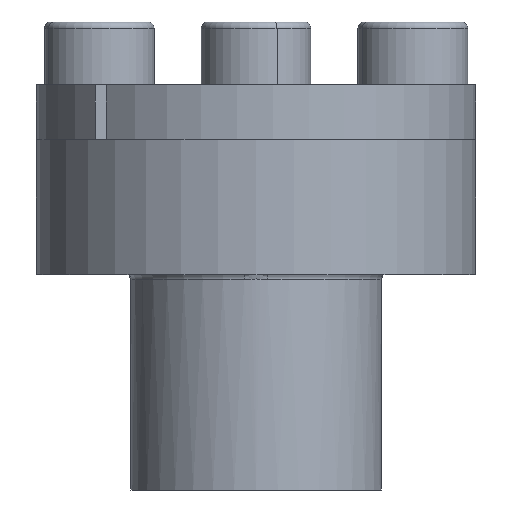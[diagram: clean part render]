
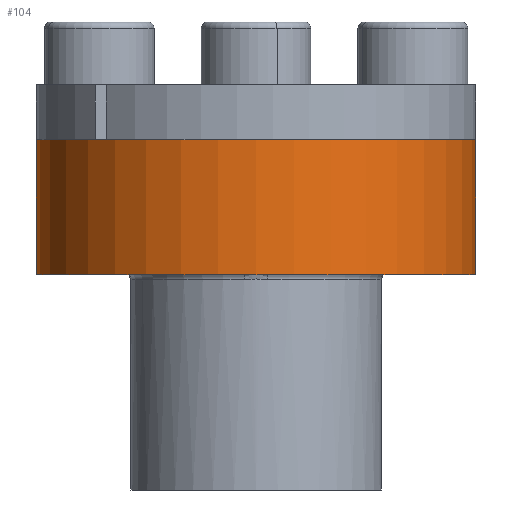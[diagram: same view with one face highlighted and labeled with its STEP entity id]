
A CAD part, front view. The second image highlights one B-rep face of the part: STEP entity #104.
In plain terms, the highlighted cylindrical face has radius 14 mm (diameter 28 mm), a partial arc.
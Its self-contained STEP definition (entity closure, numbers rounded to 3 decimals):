
#104 = ADVANCED_FACE ( 'NONE', ( #1159 ), #1026, .T. ) ;
#137 = VECTOR ( 'NONE', #4461, 1000. ) ;
#182 = DIRECTION ( 'NONE',  ( 0., 0., 1. ) ) ;
#194 = AXIS2_PLACEMENT_3D ( 'NONE', #2856, #182, #3310 ) ;
#238 = CARTESIAN_POINT ( 'NONE',  ( -14., 0., 2.34 ) ) ;
#571 = EDGE_CURVE ( 'NONE', #4364, #5284, #4912, .T. ) ;
#909 = DIRECTION ( 'NONE',  ( 0., 0., -1. ) ) ;
#1021 = VECTOR ( 'NONE', #3374, 1000. ) ;
#1026 = CYLINDRICAL_SURFACE ( 'NONE', #3289, 14. ) ;
#1159 = FACE_OUTER_BOUND ( 'NONE', #3343, .T. ) ;
#1327 = ORIENTED_EDGE ( 'NONE', *, *, #571, .F. ) ;
#1450 = ORIENTED_EDGE ( 'NONE', *, *, #3018, .T. ) ;
#1459 = ORIENTED_EDGE ( 'NONE', *, *, #4876, .T. ) ;
#2001 = VERTEX_POINT ( 'NONE', #3392 ) ;
#2101 = CARTESIAN_POINT ( 'NONE',  ( 0., 0., -6.26 ) ) ;
#2207 = LINE ( 'NONE', #238, #1021 ) ;
#2547 = DIRECTION ( 'NONE',  ( 1., 0., 0. ) ) ;
#2655 = CARTESIAN_POINT ( 'NONE',  ( 14., 0., 2.34 ) ) ;
#2682 = DIRECTION ( 'NONE',  ( -1., 0., 0. ) ) ;
#2856 = CARTESIAN_POINT ( 'NONE',  ( 0., 0., 2.34 ) ) ;
#2899 = EDGE_CURVE ( 'NONE', #5350, #4364, #3681, .T. ) ;
#3018 = EDGE_CURVE ( 'NONE', #5350, #2001, #2207, .T. ) ;
#3289 = AXIS2_PLACEMENT_3D ( 'NONE', #4939, #909, #2682 ) ;
#3310 = DIRECTION ( 'NONE',  ( 1., 0., 0. ) ) ;
#3343 = EDGE_LOOP ( 'NONE', ( #1327, #5277, #1450, #1459 ) ) ;
#3374 = DIRECTION ( 'NONE',  ( 0., 0., -1. ) ) ;
#3392 = CARTESIAN_POINT ( 'NONE',  ( -14., 0., -6.26 ) ) ;
#3556 = CARTESIAN_POINT ( 'NONE',  ( -14., 0., 2.34 ) ) ;
#3681 = CIRCLE ( 'NONE', #194, 14. ) ;
#3822 = CIRCLE ( 'NONE', #5588, 14. ) ;
#3926 = CARTESIAN_POINT ( 'NONE',  ( 14., 0., -6.26 ) ) ;
#4364 = VERTEX_POINT ( 'NONE', #5288 ) ;
#4461 = DIRECTION ( 'NONE',  ( 0., 0., -1. ) ) ;
#4876 = EDGE_CURVE ( 'NONE', #2001, #5284, #3822, .T. ) ;
#4912 = LINE ( 'NONE', #2655, #137 ) ;
#4939 = CARTESIAN_POINT ( 'NONE',  ( 0., 0., 2.34 ) ) ;
#5253 = DIRECTION ( 'NONE',  ( 0., 0., 1. ) ) ;
#5277 = ORIENTED_EDGE ( 'NONE', *, *, #2899, .F. ) ;
#5284 = VERTEX_POINT ( 'NONE', #3926 ) ;
#5288 = CARTESIAN_POINT ( 'NONE',  ( 14., 0., 2.34 ) ) ;
#5350 = VERTEX_POINT ( 'NONE', #3556 ) ;
#5588 = AXIS2_PLACEMENT_3D ( 'NONE', #2101, #5253, #2547 ) ;
